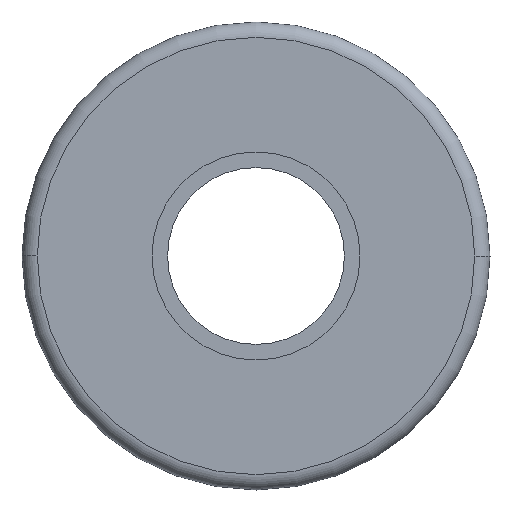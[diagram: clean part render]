
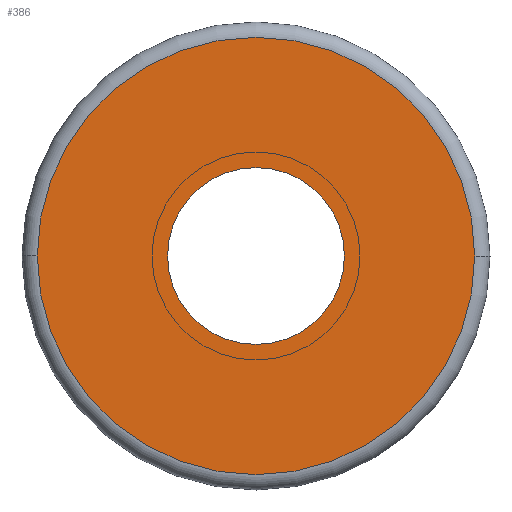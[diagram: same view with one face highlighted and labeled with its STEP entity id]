
A CAD part, front view. The second image highlights one B-rep face of the part: STEP entity #386.
In plain terms, the highlighted planar face has unit normal (0, -1, 0).
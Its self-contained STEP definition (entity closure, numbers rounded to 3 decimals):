
#1=CARTESIAN_POINT('',(0.,0.,0.));
#2=DIRECTION('',(0.,1.,0.));
#3=DIRECTION('',(1.,0.,0.));
#4=AXIS2_PLACEMENT_3D('',#1,#2,#3);
#6=CARTESIAN_POINT('',(0.,0.,0.));
#7=DIRECTION('',(0.,1.,0.));
#8=DIRECTION('',(-1.,0.,0.));
#9=AXIS2_PLACEMENT_3D('',#6,#7,#8);
#21=CARTESIAN_POINT('',(0.,0.,0.));
#22=DIRECTION('',(0.,-1.,0.));
#23=DIRECTION('',(-1.,0.,0.));
#24=AXIS2_PLACEMENT_3D('',#21,#22,#23);
#44=CARTESIAN_POINT('',(0.,0.,0.));
#45=DIRECTION('',(0.,-1.,0.));
#46=DIRECTION('',(1.,0.,0.));
#47=AXIS2_PLACEMENT_3D('',#44,#45,#46);
#335=CARTESIAN_POINT('',(-8.412,0.,0.));
#336=CARTESIAN_POINT('',(8.412,0.,0.));
#337=VERTEX_POINT('',#335);
#338=VERTEX_POINT('',#336);
#361=CARTESIAN_POINT('',(3.4,0.,0.));
#362=CARTESIAN_POINT('',(-3.4,0.,0.));
#363=VERTEX_POINT('',#361);
#364=VERTEX_POINT('',#362);
#369=CARTESIAN_POINT('',(0.,0.,0.));
#370=DIRECTION('',(0.,1.,0.));
#371=DIRECTION('',(1.,0.,0.));
#372=AXIS2_PLACEMENT_3D('',#369,#370,#371);
#373=PLANE('',#372);
#375=ORIENTED_EDGE('',*,*,#374,.F.);
#377=ORIENTED_EDGE('',*,*,#376,.F.);
#378=EDGE_LOOP('',(#375,#377));
#379=FACE_OUTER_BOUND('',#378,.F.);
#381=ORIENTED_EDGE('',*,*,#380,.F.);
#383=ORIENTED_EDGE('',*,*,#382,.F.);
#384=EDGE_LOOP('',(#381,#383));
#385=FACE_BOUND('',#384,.F.);
#386=ADVANCED_FACE('',(#379,#385),#373,.F.);
#5=CIRCLE('',#4,3.4);
#10=CIRCLE('',#9,3.4);
#25=CIRCLE('',#24,8.412);
#48=CIRCLE('',#47,8.412);
#374=EDGE_CURVE('',#337,#338,#25,.T.);
#376=EDGE_CURVE('',#338,#337,#48,.T.);
#380=EDGE_CURVE('',#363,#364,#5,.T.);
#382=EDGE_CURVE('',#364,#363,#10,.T.);
